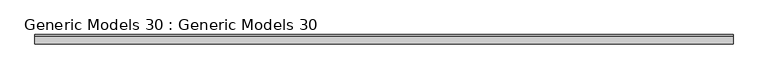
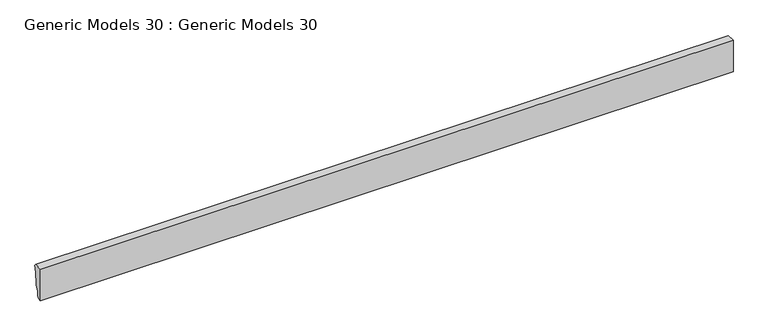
"""IFC4 building model written with IfcOpenShell, lengths in millimetres: proxy geometry, Generic Models 30 : Generic Models 30."""

from ifc_helpers import new_model, si_unit, frame, origin, place, context, project, spatial, circle_curve, source, transform, mapped, element, save
from ifc_brep_helpers import plane_surface, cylinder_surface, extruded_surface, spline_curve, advanced_brep


def generic_models_30_generic_models_30_32e6dbb7(model_context):
    return source(origin(), model_context, "Body", "AdvancedBrep", [
        advanced_brep(
        [(4102.1, 381.0, 3251.2), (4102.1, 406.4, 3251.2), (4102.1, 393.7, 3176.8098365), (4102.1, 393.7, 3156.3426919), (4102.1, 381.0, 3149.6), (6210.3, 381.0, 3251.2), (6210.3, 381.0, 3149.6), (6210.3, 393.7, 3156.3426919), (6210.3, 393.7, 3176.8098365), (6210.3, 406.4, 3251.2)],
        [
            (0, 1),
            (1, 2, spline_curve(3, [(4102.1, 406.4, 3251.2), (4102.1, 413.557194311, 3246.18847859), (4102.1, 407.330189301, 3239.961473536), (4102.1, 402.921404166, 3204.154227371), (4102.1, 405.024715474, 3173.775388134), (4102.1, 393.7, 3176.8098365)], [4, 2, 4], [0.0, 0.09464247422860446, 0.19255144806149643])),
            (2, 3),
            (3, 4, circle_curve(frame((4102.1, 383.4957035, 3160.2309933), z_axis=(-1.0, 0.0, 0.0), x_axis=(0.0, 1.0, 0.0)), 10.9200071)),
            (4, 0),
            (5, 6),
            (6, 7, circle_curve(frame((6210.3, 383.4957035, 3160.2309933), z_axis=(1.0, 0.0, 0.0), x_axis=(0.0, 1.0, 0.0)), 10.9200071)),
            (7, 8),
            (8, 9, spline_curve(3, [(6210.3, 393.7, 3176.8098365), (6210.3, 405.024715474, 3173.775388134), (6210.3, 402.921404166, 3204.154227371), (6210.3, 407.330189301, 3239.961473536), (6210.3, 413.557194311, 3246.18847859), (6210.3, 406.4, 3251.2)], [4, 2, 4], [0.0, 0.09790897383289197, 0.19255144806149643])),
            (9, 5),
            (0, 5),
            (9, 1),
            (8, 2),
            (7, 3),
            (6, 4),
        ],
        [
            plane_surface(frame((4102.1, 381.0, 3251.2), z_axis=(-1.0, 0.0, 0.0), x_axis=(0.0, 0.0, 1.0))),
            plane_surface(frame((6210.3, 381.0, 3251.2), z_axis=(1.0, 0.0, 0.0), x_axis=(0.0, 0.0, 1.0))),
            plane_surface(frame((4102.1, 381.0, 3251.2), z_axis=(0.0, 0.0, 1.0), x_axis=(1.0, 0.0, 0.0))),
            extruded_surface(spline_curve(3, [(6210.3, 406.4, 3251.2), (6210.3, 413.557194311, 3246.18847859), (6210.3, 407.330189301, 3239.961473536), (6210.3, 402.921404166, 3204.154227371), (6210.3, 405.024715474, 3173.775388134), (6210.3, 393.7, 3176.8098365)], [4, 2, 4], [0.0, 0.09464247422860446, 0.19255144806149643]), (-2108.2, 0.0, 0.0), 2108.2),
            plane_surface(frame((4102.1, 393.7, 3176.8098365), z_axis=(0.0, 1.0, 0.0), x_axis=(1.0, 0.0, 0.0))),
            cylinder_surface(frame((4102.1, 383.4957035, 3160.2309933), z_axis=(-1.0, 0.0, 0.0), x_axis=(0.0, 1.0, 0.0)), 10.9200071),
            plane_surface(frame((4102.1, 381.0, 3149.6), z_axis=(0.0, -1.0, 0.0), x_axis=(1.0, 0.0, 0.0))),
        ],
        [
            (0, [[1, 2, 3, 4, 5]]),
            (1, [[6, 7, 8, 9, 10]]),
            (2, [[-1, 11, -10, 12]]),
            (3, [[-2, -12, -9, 13]]),
            (4, [[-3, -13, -8, 14]]),
            (5, [[-4, -14, -7, 15]]),
            (6, [[-5, -15, -6, -11]]),
        ],
    ),
    ])


if __name__ == "__main__":
    model = new_model("IFC4")
    model_context = context("Model", 3, world=origin())
    ifc_project = project(units=[si_unit("LENGTHUNIT", "METRE", prefix="MILLI")], contexts=[model_context])
    site = spatial("IfcSite", under=ifc_project)
    building = spatial("IfcBuilding", under=site)
    placement = place(None, origin())
    generic_models_30_generic_models_30_shape = generic_models_30_generic_models_30_32e6dbb7(model_context)
    element("IfcBuildingElementProxy", 1, Name="Generic Models 30 : Generic Models 30", ObjectType="Generic Models 30 : Generic Models 30", at=placement, inside=building, context=model_context, shape_type="MappedRepresentation", body=[
        mapped(generic_models_30_generic_models_30_shape, transform((0.0, 0.0, 0.0), x_axis=(1.0, 0.0, 0.0), y_axis=(0.0, 1.0, 0.0), z_axis=(0.0, 0.0, 1.0))),
    ])
    save(model, "model.ifc")
